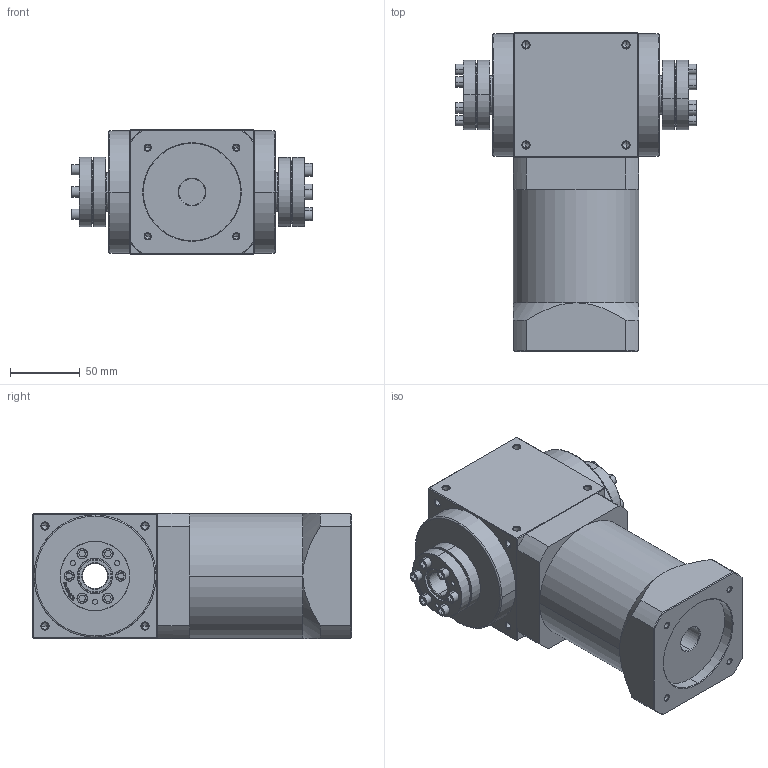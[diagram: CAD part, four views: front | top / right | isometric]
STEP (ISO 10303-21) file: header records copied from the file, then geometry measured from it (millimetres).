
FILE_DESCRIPTION (( 'STEP AP214' ), '1' );
FILE_NAME ('AT090-FC-L2(12~100) 19-70-90-M5.STEP', '2021-04-24T06:13:45', ( 'Microsoft' ), ( 'Microsoft China' ), 'SwSTEP 2.0', 'SolidWorks 2016', '' );
FILE_SCHEMA (( 'AUTOMOTIVE_DESIGN' ));
Length unit declared in the file: millimetre
Products named in the file (3): AT090-FC-L2--19-70-90-M5; 83_24x50; AT090-FC-L2(12~100) 19-70-90-M5
Assembly tree (3 placements, depth 2):
  AT090-FC-L2(12~100) 19-70-90-M5
    AT090-FC-L2--19-70-90-M5
    83_24x50  x2
Bounding box: 173 x 229.5 x 90 mm (x, y, z)
Volume: 1867934.8 mm3; surface area: 154721 mm2
Topology: 21 solids, 21 shells, 1076 faces, 2496 edges, 1464 vertices
Faces by surface type: cylinder 450, plane 278, cone 256, torus 80, bspline 12
Entity records: 19907 total; most frequent: CARTESIAN_POINT 4347, DIRECTION 3332, ORIENTED_EDGE 3148, EDGE_CURVE 1574, AXIS2_PLACEMENT_3D 1289, VERTEX_POINT 938, EDGE_LOOP 780, LINE 754
